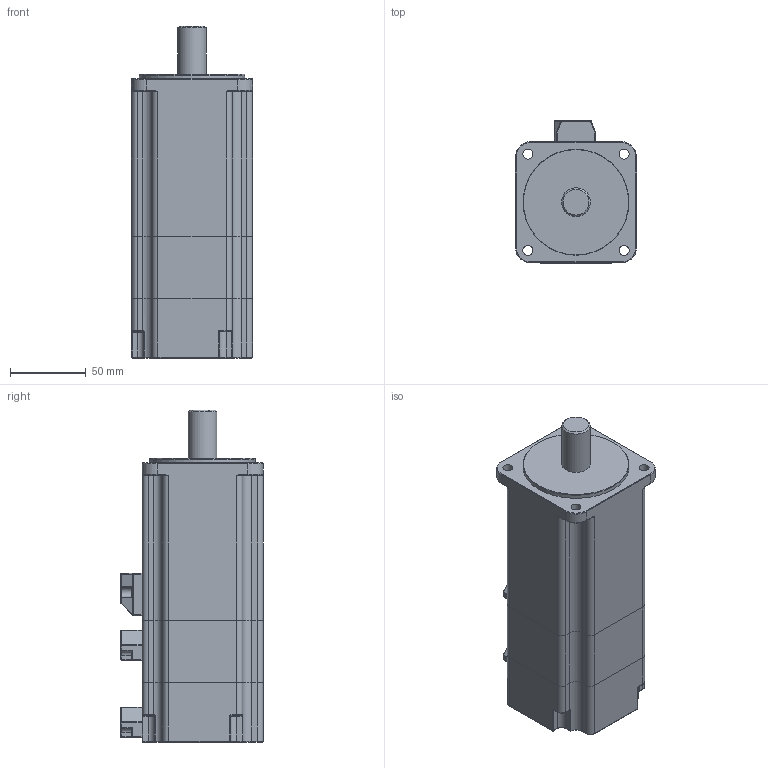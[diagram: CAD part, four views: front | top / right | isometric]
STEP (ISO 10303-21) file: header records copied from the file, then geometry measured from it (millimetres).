
FILE_DESCRIPTION(/* description */ (''),/* implementation_level */ '2;1');
FILE_NAME(/* name */ '80-MSL02430-FZ (2.39Nm、3.18Nm）.stp',/* time_stamp */ '2019-11-22T13:34:00+08:00',/* author */ (''),/* organization */ (''),/* preprocessor_version */ 'ST-DEVELOPER v16',/* originating_system */ 'SIEMENS PLM Software NX 10.0',/* authorisation */ '');
FILE_SCHEMA (('CONFIG_CONTROL_DESIGN'));
Length unit declared in the file: millimetre
Products named in the file (1): 80-MSL02430-FZ (2.39Nm、3.18Nm）
Bounding box: 80 x 94 x 219.5 mm (x, y, z)
Volume: 1085605.7 mm3; surface area: 99003.9 mm2
Topology: 6 solids, 6 shells, 393 faces, 942 edges, 525 vertices
Faces by surface type: cylinder 183, plane 101, torus 54, sphere 36, bspline 17, cone 2
Full cylindrical faces by diameter (mm): 6.6 x4, 19 x1, 70 x1
Entity records: 11241 total; most frequent: CARTESIAN_POINT 2158, DIRECTION 2060, ORIENTED_EDGE 1784, EDGE_CURVE 892, AXIS2_PLACEMENT_3D 815, VERTEX_POINT 521, LINE 430, VECTOR 430
